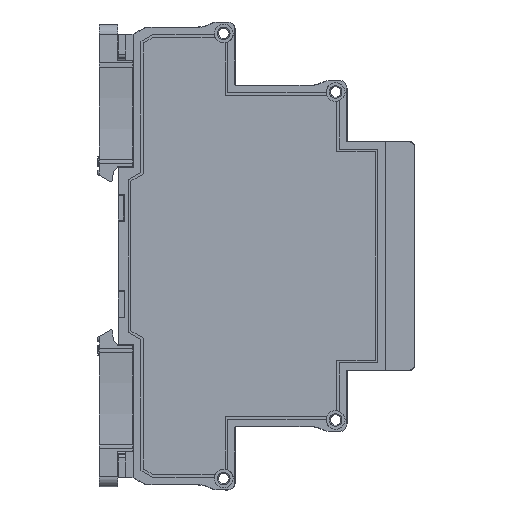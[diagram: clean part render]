
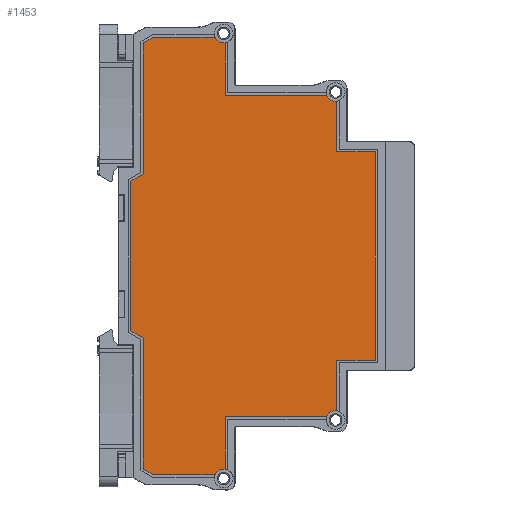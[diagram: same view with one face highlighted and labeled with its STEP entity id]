
A CAD part, front view. The second image highlights one B-rep face of the part: STEP entity #1453.
In plain terms, the highlighted planar face has unit normal (0, -1, 0) as drawn and (1, 0, 0) by its records, which use the part's own axes.
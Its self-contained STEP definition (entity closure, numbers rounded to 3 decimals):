
#1453=ADVANCED_FACE('',(#30343),#30345,.T.);
#30343=FACE_BOUND('',#30344,.T.);
#30344=EDGE_LOOP('',(#53532,#53533,#53534,#53535,#53536,#53537,#53538,#53539,#53540,
#53541,#53542,#53543,#53544,#53545,#53546,#53547,#53548,#53549,#53550,#53551,#53552,
#53553));
#30345=PLANE('',#30346);
#30346=AXIS2_PLACEMENT_3D('',#30347,#30348,#30349);
#30347=CARTESIAN_POINT('',(6.5,0.,0.));
#30348=DIRECTION('',(1.,0.,0.));
#30349=DIRECTION('',(0.,0.,-1.));
#53532=ORIENTED_EDGE('',*,*,#72046,.F.);
#53533=ORIENTED_EDGE('',*,*,#72047,.T.);
#53534=ORIENTED_EDGE('',*,*,#71964,.F.);
#53535=ORIENTED_EDGE('',*,*,#72048,.T.);
#53536=ORIENTED_EDGE('',*,*,#72049,.T.);
#53537=ORIENTED_EDGE('',*,*,#72050,.T.);
#53538=ORIENTED_EDGE('',*,*,#72051,.T.);
#53539=ORIENTED_EDGE('',*,*,#72052,.T.);
#53540=ORIENTED_EDGE('',*,*,#71948,.F.);
#53541=ORIENTED_EDGE('',*,*,#72053,.F.);
#53542=ORIENTED_EDGE('',*,*,#72054,.T.);
#53543=ORIENTED_EDGE('',*,*,#71958,.F.);
#53544=ORIENTED_EDGE('',*,*,#72055,.T.);
#53545=ORIENTED_EDGE('',*,*,#72056,.F.);
#53546=ORIENTED_EDGE('',*,*,#72057,.T.);
#53547=ORIENTED_EDGE('',*,*,#72058,.T.);
#53548=ORIENTED_EDGE('',*,*,#72059,.T.);
#53549=ORIENTED_EDGE('',*,*,#72060,.T.);
#53550=ORIENTED_EDGE('',*,*,#72061,.T.);
#53551=ORIENTED_EDGE('',*,*,#72062,.F.);
#53552=ORIENTED_EDGE('',*,*,#72063,.T.);
#53553=ORIENTED_EDGE('',*,*,#71974,.F.);
#71948=EDGE_CURVE('',#80995,#80980,#80997,.T.);
#71958=EDGE_CURVE('',#81015,#81000,#81017,.T.);
#71964=EDGE_CURVE('',#81027,#81029,#81030,.T.);
#71974=EDGE_CURVE('',#81047,#81049,#81050,.T.);
#72046=EDGE_CURVE('',#81188,#81047,#81189,.T.);
#72047=EDGE_CURVE('',#81188,#81029,#81190,.T.);
#72048=EDGE_CURVE('',#81027,#81191,#81192,.T.);
#72049=EDGE_CURVE('',#81191,#81193,#81194,.T.);
#72050=EDGE_CURVE('',#81193,#81195,#81196,.T.);
#72051=EDGE_CURVE('',#81195,#81197,#81198,.T.);
#72052=EDGE_CURVE('',#81197,#80980,#81199,.T.);
#72053=EDGE_CURVE('',#81200,#80995,#81201,.T.);
#72054=EDGE_CURVE('',#81200,#81000,#81202,.T.);
#72055=EDGE_CURVE('',#81015,#81203,#81204,.T.);
#72056=EDGE_CURVE('',#81205,#81203,#81206,.T.);
#72057=EDGE_CURVE('',#81205,#81207,#81208,.T.);
#72058=EDGE_CURVE('',#81207,#81209,#81210,.T.);
#72059=EDGE_CURVE('',#81209,#81211,#81212,.T.);
#72060=EDGE_CURVE('',#81211,#81213,#81214,.T.);
#72061=EDGE_CURVE('',#81213,#81215,#81216,.T.);
#72062=EDGE_CURVE('',#81217,#81215,#81218,.T.);
#72063=EDGE_CURVE('',#81217,#81049,#81219,.T.);
#80980=VERTEX_POINT('',#96617);
#80995=VERTEX_POINT('',#96650);
#80997=CIRCLE('',#96654,1.85);
#81000=VERTEX_POINT('',#96663);
#81015=VERTEX_POINT('',#96696);
#81017=CIRCLE('',#96700,1.85);
#81027=VERTEX_POINT('',#96724);
#81029=VERTEX_POINT('',#96728);
#81030=CIRCLE('',#96729,1.85);
#81047=VERTEX_POINT('',#96770);
#81049=VERTEX_POINT('',#96774);
#81050=CIRCLE('',#96775,1.85);
#81188=VERTEX_POINT('',#97079);
#81189=LINE('',#97080,#97081);
#81190=LINE('',#97083,#97084);
#81191=VERTEX_POINT('',#97086);
#81192=LINE('',#97087,#97088);
#81193=VERTEX_POINT('',#97090);
#81194=LINE('',#97091,#97092);
#81195=VERTEX_POINT('',#97094);
#81196=LINE('',#97095,#97096);
#81197=VERTEX_POINT('',#97098);
#81198=LINE('',#97099,#97100);
#81199=LINE('',#97102,#97103);
#81200=VERTEX_POINT('',#97105);
#81201=LINE('',#97106,#97107);
#81202=LINE('',#97109,#97110);
#81203=VERTEX_POINT('',#97112);
#81204=LINE('',#97113,#97114);
#81205=VERTEX_POINT('',#97116);
#81206=LINE('',#97117,#97118);
#81207=VERTEX_POINT('',#97120);
#81208=LINE('',#97121,#97122);
#81209=VERTEX_POINT('',#97124);
#81210=LINE('',#97125,#97126);
#81211=VERTEX_POINT('',#97128);
#81212=LINE('',#97129,#97130);
#81213=VERTEX_POINT('',#97132);
#81214=LINE('',#97133,#97134);
#81215=VERTEX_POINT('',#97136);
#81216=LINE('',#97137,#97138);
#81217=VERTEX_POINT('',#97140);
#81218=LINE('',#97141,#97142);
#81219=LINE('',#97144,#97145);
#96617=CARTESIAN_POINT('',(6.5,-30.541,38.985));
#96650=CARTESIAN_POINT('',(6.5,-31.7,37.015));
#96654=AXIS2_PLACEMENT_3D('',#96655,#96656,#96657);
#96655=CARTESIAN_POINT('',(6.5,-32.375,38.738));
#96656=DIRECTION('',(1.,0.,0.));
#96657=DIRECTION('',(0.,0.365,-0.931));
#96663=CARTESIAN_POINT('',(6.5,-42.103,16.897));
#96696=CARTESIAN_POINT('',(6.5,-43.2,14.953));
#96700=AXIS2_PLACEMENT_3D('',#96701,#96702,#96703);
#96701=CARTESIAN_POINT('',(6.5,-43.937,16.65));
#96702=DIRECTION('',(1.,0.,0.));
#96703=DIRECTION('',(0.,0.398,-0.917));
#96724=CARTESIAN_POINT('',(6.5,30.541,38.985));
#96728=CARTESIAN_POINT('',(6.5,31.7,37.015));
#96729=AXIS2_PLACEMENT_3D('',#96730,#96731,#96732);
#96730=CARTESIAN_POINT('',(6.5,32.375,38.738));
#96731=DIRECTION('',(1.,0.,0.));
#96732=DIRECTION('',(0.,-0.991,0.134));
#96770=CARTESIAN_POINT('',(6.5,42.103,16.897));
#96774=CARTESIAN_POINT('',(6.5,43.2,14.953));
#96775=AXIS2_PLACEMENT_3D('',#96776,#96777,#96778);
#96776=CARTESIAN_POINT('',(6.5,43.937,16.65));
#96777=DIRECTION('',(1.,0.,0.));
#96778=DIRECTION('',(0.,-0.991,0.134));
#97079=CARTESIAN_POINT('',(6.5,31.7,16.897));
#97080=CARTESIAN_POINT('',(6.5,31.7,16.897));
#97081=VECTOR('',#97082,1.);
#97082=DIRECTION('',(0.,1.,0.));
#97083=CARTESIAN_POINT('',(6.5,31.7,16.897));
#97084=VECTOR('',#97085,1.);
#97085=DIRECTION('',(0.,0.,1.));
#97086=CARTESIAN_POINT('',(6.5,20.6,38.985));
#97087=CARTESIAN_POINT('',(6.5,30.541,38.985));
#97088=VECTOR('',#97089,1.);
#97089=DIRECTION('',(0.,-1.,0.));
#97090=CARTESIAN_POINT('',(6.5,20.6,46.53));
#97091=CARTESIAN_POINT('',(6.5,20.6,38.985));
#97092=VECTOR('',#97093,1.);
#97093=DIRECTION('',(0.,0.,1.));
#97094=CARTESIAN_POINT('',(6.5,-20.6,46.53));
#97095=CARTESIAN_POINT('',(6.5,20.6,46.53));
#97096=VECTOR('',#97097,1.);
#97097=DIRECTION('',(0.,-1.,0.));
#97098=CARTESIAN_POINT('',(6.5,-20.6,38.985));
#97099=CARTESIAN_POINT('',(6.5,-20.6,46.53));
#97100=VECTOR('',#97101,1.);
#97101=DIRECTION('',(0.,0.,-1.));
#97102=CARTESIAN_POINT('',(6.5,-20.6,38.985));
#97103=VECTOR('',#97104,1.);
#97104=DIRECTION('',(0.,-1.,0.));
#97105=CARTESIAN_POINT('',(6.5,-31.7,16.897));
#97106=CARTESIAN_POINT('',(6.5,-31.7,16.897));
#97107=VECTOR('',#97108,1.);
#97108=DIRECTION('',(0.,0.,1.));
#97109=CARTESIAN_POINT('',(6.5,-31.7,16.897));
#97110=VECTOR('',#97111,1.);
#97111=DIRECTION('',(0.,-1.,0.));
#97112=CARTESIAN_POINT('',(6.5,-43.2,2.761));
#97113=CARTESIAN_POINT('',(6.5,-43.2,14.953));
#97114=VECTOR('',#97115,1.);
#97115=DIRECTION('',(0.,0.,-1.));
#97116=CARTESIAN_POINT('',(6.5,-42.068,0.8));
#97117=CARTESIAN_POINT('',(6.5,-42.068,0.8));
#97118=VECTOR('',#97119,1.);
#97119=DIRECTION('',(0.,-0.5,0.866));
#97120=CARTESIAN_POINT('',(6.5,-16.211,0.8));
#97121=CARTESIAN_POINT('',(6.5,-42.068,0.8));
#97122=VECTOR('',#97123,1.);
#97123=DIRECTION('',(0.,1.,0.));
#97124=CARTESIAN_POINT('',(6.5,-14.768,-1.7));
#97125=CARTESIAN_POINT('',(6.5,-16.211,0.8));
#97126=VECTOR('',#97127,1.);
#97127=DIRECTION('',(0.,0.5,-0.866));
#97128=CARTESIAN_POINT('',(6.5,14.768,-1.7));
#97129=CARTESIAN_POINT('',(6.5,-14.768,-1.7));
#97130=VECTOR('',#97131,1.);
#97131=DIRECTION('',(0.,1.,0.));
#97132=CARTESIAN_POINT('',(6.5,16.211,0.8));
#97133=CARTESIAN_POINT('',(6.5,14.768,-1.7));
#97134=VECTOR('',#97135,1.);
#97135=DIRECTION('',(0.,0.5,0.866));
#97136=CARTESIAN_POINT('',(6.5,42.068,0.8));
#97137=CARTESIAN_POINT('',(6.5,16.211,0.8));
#97138=VECTOR('',#97139,1.);
#97139=DIRECTION('',(0.,1.,0.));
#97140=CARTESIAN_POINT('',(6.5,43.2,2.761));
#97141=CARTESIAN_POINT('',(6.5,43.2,2.761));
#97142=VECTOR('',#97143,1.);
#97143=DIRECTION('',(0.,-0.5,-0.866));
#97144=CARTESIAN_POINT('',(6.5,43.2,2.761));
#97145=VECTOR('',#97146,1.);
#97146=DIRECTION('',(0.,0.,1.));
